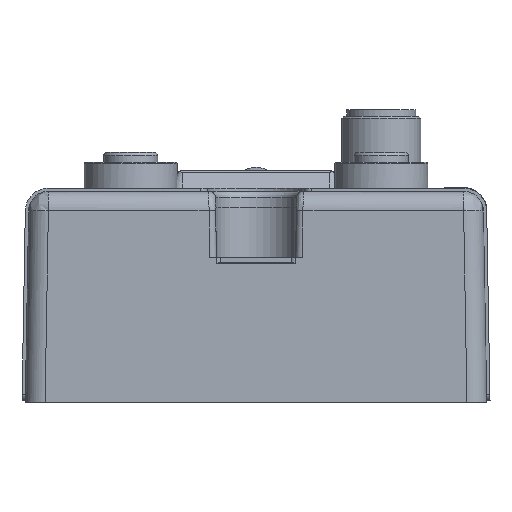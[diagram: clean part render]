
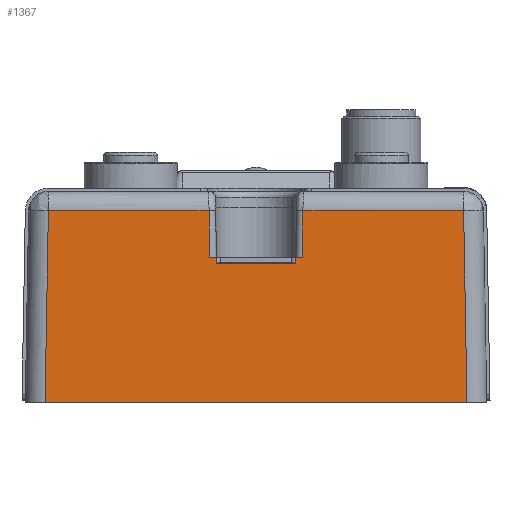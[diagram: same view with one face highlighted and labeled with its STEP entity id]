
A CAD part, front view. The second image highlights one B-rep face of the part: STEP entity #1367.
In plain terms, the highlighted planar face has unit normal (0, -1, 0.018).
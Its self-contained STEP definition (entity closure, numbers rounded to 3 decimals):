
#410 = ORIENTED_EDGE ( 'NONE', *, *, #16683, .F. ) ;
#420 = CARTESIAN_POINT ( 'NONE',  ( -32., -56.5, -32. ) ) ;
#688 = EDGE_CURVE ( 'NONE', #30631, #4890, #43656, .T. ) ;
#1367 = ADVANCED_FACE ( 'NONE', ( #14965 ), #7167, .T. ) ;
#1892 = LINE ( 'NONE', #15215, #16489 ) ;
#1997 = VECTOR ( 'NONE', #41785, 1000. ) ;
#3018 = ORIENTED_EDGE ( 'NONE', *, *, #688, .T. ) ;
#3857 = VERTEX_POINT ( 'NONE', #49580 ) ;
#4313 = ORIENTED_EDGE ( 'NONE', *, *, #30898, .T. ) ;
#4325 = CARTESIAN_POINT ( 'NONE',  ( 7.123, -55.993, -2.948 ) ) ;
#4890 = VERTEX_POINT ( 'NONE', #15896 ) ;
#7167 = PLANE ( 'NONE',  #14010 ) ;
#8445 = VERTEX_POINT ( 'NONE', #36943 ) ;
#8789 = VECTOR ( 'NONE', #20360, 1000. ) ;
#8863 = VECTOR ( 'NONE', #15061, 1000. ) ;
#9729 = CARTESIAN_POINT ( 'NONE',  ( 31.493, -55.993, -2.948 ) ) ;
#10779 = VERTEX_POINT ( 'NONE', #34482 ) ;
#11064 = LINE ( 'NONE', #16334, #21538 ) ;
#13102 = CARTESIAN_POINT ( 'NONE',  ( 7.123, -55.993, -2.948 ) ) ;
#13382 = ORIENTED_EDGE ( 'NONE', *, *, #34452, .T. ) ;
#14010 = AXIS2_PLACEMENT_3D ( 'NONE', #50011, #20201, #32459 ) ;
#14872 = VERTEX_POINT ( 'NONE', #41591 ) ;
#14965 = FACE_OUTER_BOUND ( 'NONE', #51959, .T. ) ;
#15061 = DIRECTION ( 'NONE',  ( 1., 0., 0. ) ) ;
#15215 = CARTESIAN_POINT ( 'NONE',  ( 6.012, -56.118, -10.098 ) ) ;
#15462 = EDGE_CURVE ( 'NONE', #44457, #3857, #50449, .T. ) ;
#15896 = CARTESIAN_POINT ( 'NONE',  ( 6.014, -56.116, -10. ) ) ;
#16244 = VERTEX_POINT ( 'NONE', #420 ) ;
#16334 = CARTESIAN_POINT ( 'NONE',  ( 32., -56.5, -32. ) ) ;
#16489 = VECTOR ( 'NONE', #40543, 1000. ) ;
#16683 = EDGE_CURVE ( 'NONE', #38110, #3857, #44838, .T. ) ;
#17405 = ORIENTED_EDGE ( 'NONE', *, *, #32227, .T. ) ;
#17576 = VECTOR ( 'NONE', #22198, 1000. ) ;
#18510 = DIRECTION ( 'NONE',  ( -1., 0., 0. ) ) ;
#18792 = CARTESIAN_POINT ( 'NONE',  ( -34.441, -56.5, -32. ) ) ;
#19316 = ORIENTED_EDGE ( 'NONE', *, *, #51128, .T. ) ;
#20201 = DIRECTION ( 'NONE',  ( 0., -1., 0.017 ) ) ;
#20360 = DIRECTION ( 'NONE',  ( -0.017, 0.017, 1. ) ) ;
#20424 = CARTESIAN_POINT ( 'NONE',  ( -5.996, -56.133, -10.997 ) ) ;
#20771 = VECTOR ( 'NONE', #45846, 1000. ) ;
#21156 = CARTESIAN_POINT ( 'NONE',  ( -17.221, -55.993, -2.948 ) ) ;
#21538 = VECTOR ( 'NONE', #45315, 1000. ) ;
#21774 = CARTESIAN_POINT ( 'NONE',  ( -31.493, -55.993, -2.948 ) ) ;
#22198 = DIRECTION ( 'NONE',  ( -1., 0., 0. ) ) ;
#22429 = VECTOR ( 'NONE', #29334, 1000. ) ;
#22484 = CARTESIAN_POINT ( 'NONE',  ( -31.493, -55.993, -2.948 ) ) ;
#27570 = CARTESIAN_POINT ( 'NONE',  ( -17.221, -55.993, -2.948 ) ) ;
#28193 = ORIENTED_EDGE ( 'NONE', *, *, #15462, .T. ) ;
#29334 = DIRECTION ( 'NONE',  ( -0.017, -0.017, -1. ) ) ;
#30631 = VERTEX_POINT ( 'NONE', #46429 ) ;
#30898 = EDGE_CURVE ( 'NONE', #4890, #14872, #1892, .T. ) ;
#30950 = LINE ( 'NONE', #21774, #44061 ) ;
#31814 = CARTESIAN_POINT ( 'NONE',  ( 32., -56.5, -32. ) ) ;
#31984 = VERTEX_POINT ( 'NONE', #13102 ) ;
#32227 = EDGE_CURVE ( 'NONE', #16244, #41992, #36318, .T. ) ;
#32402 = DIRECTION ( 'NONE',  ( -0.017, 0.017, 1. ) ) ;
#32459 = DIRECTION ( 'NONE',  ( 0., -0.017, -1. ) ) ;
#34452 = EDGE_CURVE ( 'NONE', #41992, #43078, #11064, .T. ) ;
#34482 = CARTESIAN_POINT ( 'NONE',  ( -5.996, -56.133, -10.997 ) ) ;
#35414 = DIRECTION ( 'NONE',  ( -0.017, -0.017, -1. ) ) ;
#36318 = LINE ( 'NONE', #18792, #52141 ) ;
#36604 = LINE ( 'NONE', #20424, #44887 ) ;
#36626 = VECTOR ( 'NONE', #18510, 1000. ) ;
#36803 = CARTESIAN_POINT ( 'NONE',  ( -6.998, -56.118, -10.098 ) ) ;
#36943 = CARTESIAN_POINT ( 'NONE',  ( -6.014, -56.116, -10. ) ) ;
#37012 = EDGE_CURVE ( 'NONE', #14872, #10779, #45200, .T. ) ;
#38110 = VERTEX_POINT ( 'NONE', #22484 ) ;
#38629 = EDGE_CURVE ( 'NONE', #31984, #30631, #46894, .T. ) ;
#40013 = CARTESIAN_POINT ( 'NONE',  ( 0., -56.116, -10. ) ) ;
#40543 = DIRECTION ( 'NONE',  ( -0.017, -0.017, -1. ) ) ;
#40901 = ORIENTED_EDGE ( 'NONE', *, *, #50228, .T. ) ;
#41178 = EDGE_CURVE ( 'NONE', #44457, #8445, #49758, .T. ) ;
#41388 = CARTESIAN_POINT ( 'NONE',  ( -34.441, -56.116, -10. ) ) ;
#41591 = CARTESIAN_POINT ( 'NONE',  ( 5.996, -56.133, -10.997 ) ) ;
#41785 = DIRECTION ( 'NONE',  ( 1., 0., 0. ) ) ;
#41992 = VERTEX_POINT ( 'NONE', #31814 ) ;
#43078 = VERTEX_POINT ( 'NONE', #9729 ) ;
#43259 = ORIENTED_EDGE ( 'NONE', *, *, #38629, .T. ) ;
#43656 = LINE ( 'NONE', #40013, #17576 ) ;
#44061 = VECTOR ( 'NONE', #35414, 1000. ) ;
#44457 = VERTEX_POINT ( 'NONE', #46001 ) ;
#44838 = LINE ( 'NONE', #27570, #8863 ) ;
#44887 = VECTOR ( 'NONE', #32402, 1000. ) ;
#44946 = DIRECTION ( 'NONE',  ( 1., 0., 0. ) ) ;
#45200 = LINE ( 'NONE', #49115, #36626 ) ;
#45315 = DIRECTION ( 'NONE',  ( -0.017, 0.017, 1. ) ) ;
#45846 = DIRECTION ( 'NONE',  ( 1., 0., 0. ) ) ;
#46001 = CARTESIAN_POINT ( 'NONE',  ( -7., -56.116, -10. ) ) ;
#46429 = CARTESIAN_POINT ( 'NONE',  ( 7., -56.116, -10. ) ) ;
#46894 = LINE ( 'NONE', #4325, #22429 ) ;
#47654 = ORIENTED_EDGE ( 'NONE', *, *, #41178, .F. ) ;
#47756 = EDGE_CURVE ( 'NONE', #31984, #43078, #50138, .T. ) ;
#49058 = ORIENTED_EDGE ( 'NONE', *, *, #47756, .F. ) ;
#49115 = CARTESIAN_POINT ( 'NONE',  ( -34.441, -56.133, -10.997 ) ) ;
#49580 = CARTESIAN_POINT ( 'NONE',  ( -7.123, -55.993, -2.948 ) ) ;
#49758 = LINE ( 'NONE', #41388, #20771 ) ;
#50011 = CARTESIAN_POINT ( 'NONE',  ( -34.441, -55.941, 0. ) ) ;
#50138 = LINE ( 'NONE', #21156, #1997 ) ;
#50228 = EDGE_CURVE ( 'NONE', #10779, #8445, #36604, .T. ) ;
#50449 = LINE ( 'NONE', #36803, #8789 ) ;
#51128 = EDGE_CURVE ( 'NONE', #38110, #16244, #30950, .T. ) ;
#51959 = EDGE_LOOP ( 'NONE', ( #47654, #28193, #410, #19316, #17405, #13382, #49058, #43259, #3018, #4313, #54778, #40901 ) ) ;
#52141 = VECTOR ( 'NONE', #44946, 1000. ) ;
#54778 = ORIENTED_EDGE ( 'NONE', *, *, #37012, .T. ) ;
